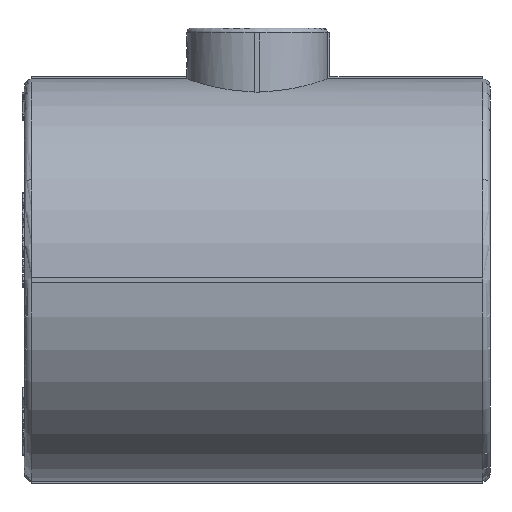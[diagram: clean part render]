
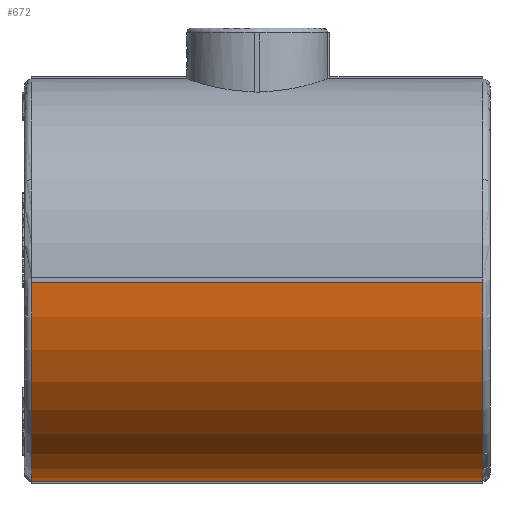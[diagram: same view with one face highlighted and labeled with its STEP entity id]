
A CAD part, left-side view. The second image highlights one B-rep face of the part: STEP entity #672.
In plain terms, the highlighted cylindrical face has radius 41.5 mm (diameter 83 mm), a partial arc.
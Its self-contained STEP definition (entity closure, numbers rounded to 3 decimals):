
#672=ADVANCED_FACE('',(#5215),#5217,.T.);
#5215=FACE_BOUND('',#5216,.T.);
#5216=EDGE_LOOP('',(#13222,#13223,#13224,#13225));
#5217=CYLINDRICAL_SURFACE('',#5218,41.5);
#5218=AXIS2_PLACEMENT_3D('',#5219,#5220,#5221);
#5219=CARTESIAN_POINT('',(0.,-48.,0.));
#5220=DIRECTION('',(0.,1.,0.));
#5221=DIRECTION('',(-1.,0.,0.));
#13222=ORIENTED_EDGE('',*,*,#18693,.F.);
#13223=ORIENTED_EDGE('',*,*,#18694,.T.);
#13224=ORIENTED_EDGE('',*,*,#18695,.F.);
#13225=ORIENTED_EDGE('',*,*,#18656,.F.);
#18656=EDGE_CURVE('',#22976,#22978,#22979,.T.);
#18693=EDGE_CURVE('',#23045,#22976,#23046,.T.);
#18694=EDGE_CURVE('',#23045,#23047,#23048,.T.);
#18695=EDGE_CURVE('',#22978,#23047,#23049,.F.);
#22976=VERTEX_POINT('',#31717);
#22978=VERTEX_POINT('',#31722);
#22979=CIRCLE('',#31723,41.5);
#23045=VERTEX_POINT('',#32100);
#23046=LINE('',#32101,#32102);
#23047=VERTEX_POINT('',#32104);
#23048=CIRCLE('',#32105,41.5);
#23049=LINE('',#32109,#32110);
#31717=CARTESIAN_POINT('',(-0.5,46.5,-41.497));
#31722=CARTESIAN_POINT('',(-41.497,46.5,-0.5));
#31723=AXIS2_PLACEMENT_3D('',#31724,#31725,#31726);
#31724=CARTESIAN_POINT('',(0.,46.5,0.));
#31725=DIRECTION('',(0.,1.,0.));
#31726=DIRECTION('',(-0.012,0.,-1.));
#32100=CARTESIAN_POINT('',(-0.5,-46.5,-41.497));
#32101=CARTESIAN_POINT('',(-0.5,-46.5,-41.497));
#32102=VECTOR('',#32103,1.);
#32103=DIRECTION('',(0.,1.,0.));
#32104=CARTESIAN_POINT('',(-41.497,-46.5,-0.5));
#32105=AXIS2_PLACEMENT_3D('',#32106,#32107,#32108);
#32106=CARTESIAN_POINT('',(0.,-46.5,0.));
#32107=DIRECTION('',(0.,1.,0.));
#32108=DIRECTION('',(-0.012,0.,-1.));
#32109=CARTESIAN_POINT('',(-41.497,-46.5,-0.5));
#32110=VECTOR('',#32111,1.);
#32111=DIRECTION('',(0.,1.,0.));
